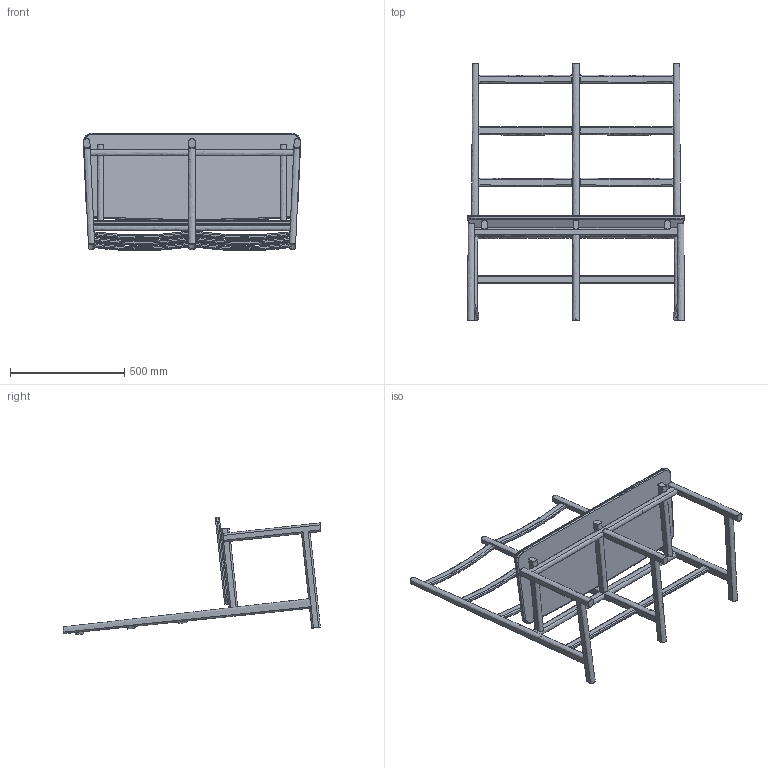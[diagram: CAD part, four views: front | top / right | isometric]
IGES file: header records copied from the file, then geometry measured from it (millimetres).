
Start section: SolidWorks IGES file using analytic representation for surfaces
Global section: file name: C:\Users\David.BDLE\Desktop\shaker chair\763 Shaker Bench.IGS; native system: SolidWorks 2016; preprocessor: SolidWorks 2016; author: David; date: 191118.125239; units: millimetre
Bounding box: 951.16 x 1127.76 x 514.62 mm (x, y, z)
Surface area: 2004512.8 mm2 (no closed solid volume)
Topology: 0 solids, 0 shells, 395 faces, 5877 edges, 5867 vertices
Faces by surface type: bspline 329, revolution 66
